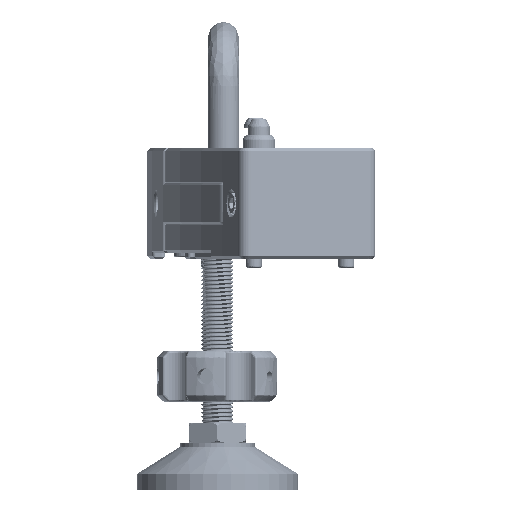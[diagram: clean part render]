
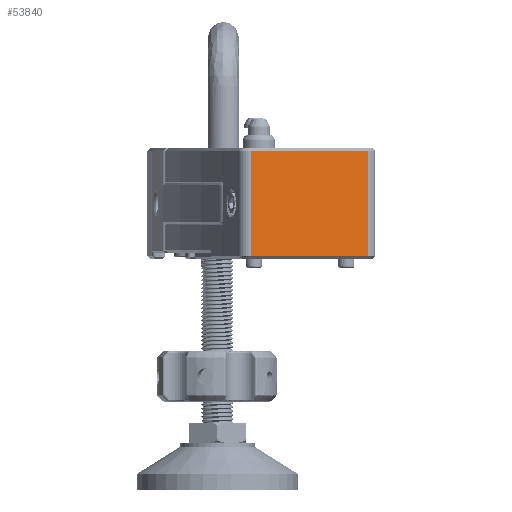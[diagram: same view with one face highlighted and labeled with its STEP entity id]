
A CAD part, left-side view. The second image highlights one B-rep face of the part: STEP entity #53840.
In plain terms, the highlighted planar face has unit normal (-0.94, -0.342, 0) as drawn and (-1, 0, 0) by its records, which use the part's own axes.
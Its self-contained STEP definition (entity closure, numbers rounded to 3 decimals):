
#2249 = CARTESIAN_POINT ( 'NONE',  ( -28., 72.125, -27.5 ) ) ;
#7680 = VERTEX_POINT ( 'NONE', #104448 ) ;
#21226 = CARTESIAN_POINT ( 'NONE',  ( -28., 36.065, 26. ) ) ;
#22458 = CARTESIAN_POINT ( 'NONE',  ( -28., 72.125, -26. ) ) ;
#29613 = VECTOR ( 'NONE', #206206, 1000. ) ;
#37490 = DIRECTION ( 'NONE',  ( 0., 0., 1. ) ) ;
#38159 = CARTESIAN_POINT ( 'NONE',  ( -28., 5.005, 26. ) ) ;
#44893 = CARTESIAN_POINT ( 'NONE',  ( -28., 67.125, -27.5 ) ) ;
#53840 = ADVANCED_FACE ( 'NONE', ( #214923 ), #179583, .T. ) ;
#54256 = ORIENTED_EDGE ( 'NONE', *, *, #110225, .F. ) ;
#55962 = EDGE_LOOP ( 'NONE', ( #54256, #93587, #223988, #192764 ) ) ;
#60489 = LINE ( 'NONE', #170107, #29613 ) ;
#71618 = LINE ( 'NONE', #44893, #158787 ) ;
#72150 = AXIS2_PLACEMENT_3D ( 'NONE', #2249, #108229, #37490 ) ;
#76070 = DIRECTION ( 'NONE',  ( 0., -1., 0. ) ) ;
#83301 = LINE ( 'NONE', #22458, #215375 ) ;
#93587 = ORIENTED_EDGE ( 'NONE', *, *, #127086, .F. ) ;
#98356 = DIRECTION ( 'NONE',  ( 0., 0., -1. ) ) ;
#104448 = CARTESIAN_POINT ( 'NONE',  ( -28., 67.125, -26. ) ) ;
#105706 = CARTESIAN_POINT ( 'NONE',  ( -28., 67.125, 26. ) ) ;
#108229 = DIRECTION ( 'NONE',  ( -1., 0., 0. ) ) ;
#110225 = EDGE_CURVE ( 'NONE', #196543, #212343, #60489, .T. ) ;
#116830 = VERTEX_POINT ( 'NONE', #105706 ) ;
#124418 = VECTOR ( 'NONE', #76070, 1000. ) ;
#127086 = EDGE_CURVE ( 'NONE', #116830, #196543, #211542, .T. ) ;
#139429 = CARTESIAN_POINT ( 'NONE',  ( -28., 5.005, -26. ) ) ;
#147999 = DIRECTION ( 'NONE',  ( 0., -1., 0. ) ) ;
#150936 = EDGE_CURVE ( 'NONE', #7680, #212343, #83301, .T. ) ;
#158787 = VECTOR ( 'NONE', #98356, 1000. ) ;
#166788 = EDGE_CURVE ( 'NONE', #116830, #7680, #71618, .T. ) ;
#170107 = CARTESIAN_POINT ( 'NONE',  ( -28., 5.005, 99.198 ) ) ;
#179583 = PLANE ( 'NONE',  #72150 ) ;
#192764 = ORIENTED_EDGE ( 'NONE', *, *, #150936, .T. ) ;
#196543 = VERTEX_POINT ( 'NONE', #38159 ) ;
#206206 = DIRECTION ( 'NONE',  ( 0., 0., -1. ) ) ;
#211542 = LINE ( 'NONE', #21226, #124418 ) ;
#212343 = VERTEX_POINT ( 'NONE', #139429 ) ;
#214923 = FACE_OUTER_BOUND ( 'NONE', #55962, .T. ) ;
#215375 = VECTOR ( 'NONE', #147999, 1000. ) ;
#223988 = ORIENTED_EDGE ( 'NONE', *, *, #166788, .T. ) ;
